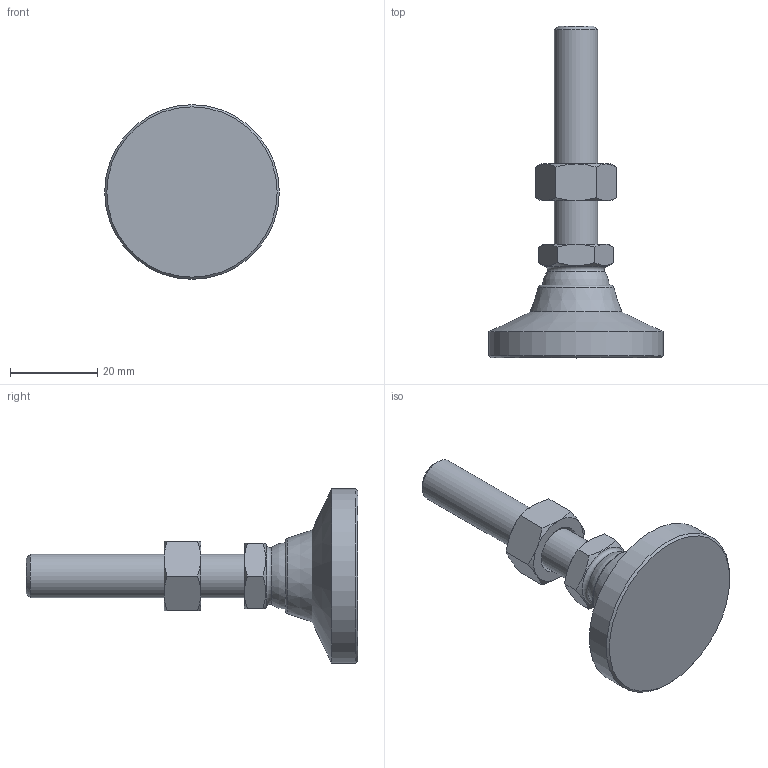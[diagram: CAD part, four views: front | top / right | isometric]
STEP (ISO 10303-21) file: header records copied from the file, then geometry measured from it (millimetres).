
FILE_DESCRIPTION( ( 'STEP AP214' ), ' ' );
FILE_NAME( 'O:/ganter_2015/teil_2/2_5/gn343_2/gn343_2_os/Levelling foot with threaded stud GN 343.2-40-M10-50-OS-(0).stp', '2015-10-26T09:07:10', ( '' ), ( '' ), ' ', 'PARTsolutions', ' ' );
FILE_SCHEMA( ( 'AUTOMOTIVE_DESIGN { 1 0 10303 214 1 1 1 1 }' ) );
Length unit declared in the file: millimetre
Products named in the file (4): Levelling foot with threaded stud GN 343.2-40-M10-50-OS-(0); _Levelling foot with threaded stud GN 343.2-40-M10-50-OS-(0)_foot; _Levelling foot with threaded stud GN 343.2-40-M10-50-OS-(0)_screw; _Stainless Steel-Levelling feet GN 343.2-40-M10-50-OS-(0)_nut
Assembly tree (3 placements, depth 2):
  Levelling foot with threaded stud GN 343.2-40-M10-50-OS-(0)
    _Levelling foot with threaded stud GN 343.2-40-M10-50-OS-(0)_foot
    _Levelling foot with threaded stud GN 343.2-40-M10-50-OS-(0)_screw
    _Stainless Steel-Levelling feet GN 343.2-40-M10-50-OS-(0)_nut
Bounding box: 40 x 76 x 40 mm (x, y, z)
Volume: 19588.5 mm3; surface area: 7443.3 mm2
Topology: 3 solids, 3 shells, 50 faces, 107 edges, 63 vertices
Faces by surface type: cone 25, plane 18, cylinder 3, torus 2, sphere 2
Full cylindrical faces by diameter (mm): 8.376 x1, 10 x1, 40 x1
Entity records: 1874 total; most frequent: CARTESIAN_POINT 468, DIRECTION 188, ORIENTED_EDGE 176, AXIS2_PLACEMENT_3D 88, EDGE_CURVE 88, EDGE_LOOP 66, VERTEX_POINT 60, FACE_OUTER_BOUND 55
